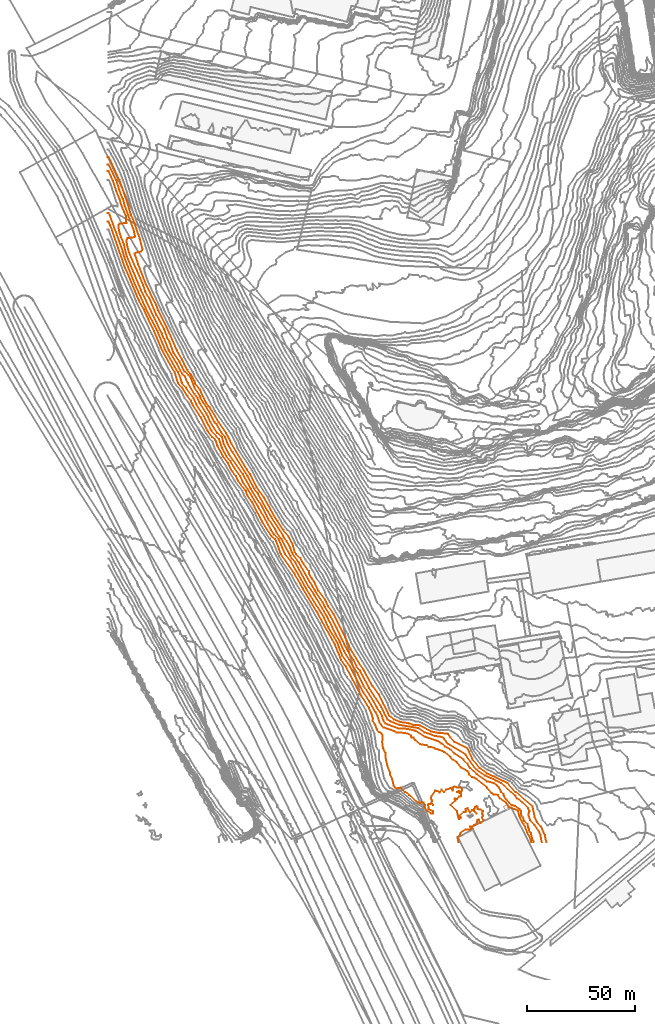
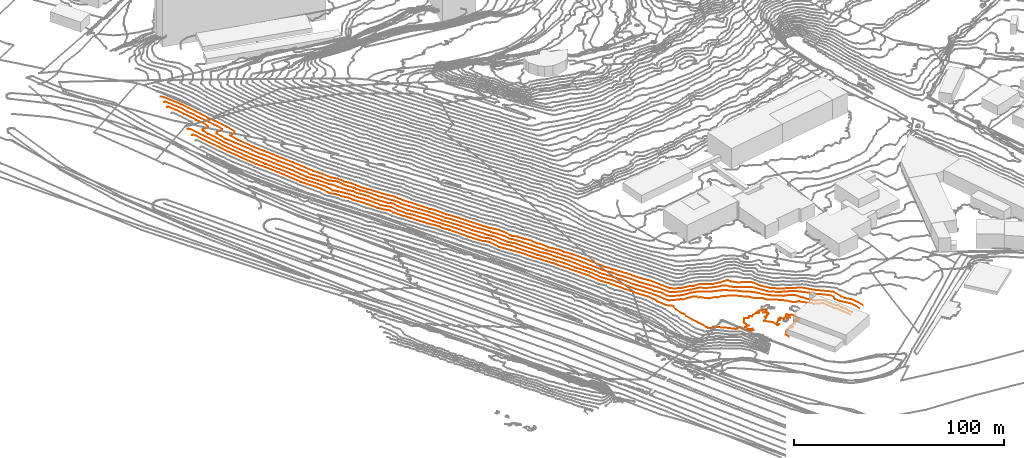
# Not in any storey, part 111 of 419: 5 proxies.
"""IFC2X3 model written with IfcOpenShell, lengths in metres."""

from ifc_helpers import new_model, entity, si_unit, frame, origin_with_axes, place, context, subcontext, project, element, save


model = new_model("IFC2X3")

# Units and contexts
model_context = context("Model", 3, precision=1e-05, world=origin_with_axes())
body_context = subcontext(model_context, "Body", "Model", "MODEL_VIEW")
ifc_project = project(units=[si_unit("AREAUNIT", "SQUARE_METRE"), si_unit("LENGTHUNIT", "METRE")], contexts=[model_context])

# Proxies
proxy_1_placement = place(None, frame((-0.4079795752, 285.5310245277, 10.0), z_axis=(0.0, 0.0, 1.0), x_axis=(1.0, 0.0, 0.0)))
element("IfcBuildingElementProxy", 1, at=proxy_1_placement, Name="Contour 10.0 m", ObjectType="NOTDEFINED", context=body_context, shape_type="GeometricCurveSet", body=[
    entity("IfcGeometricCurveSet", [entity("IfcPolyline", [entity("IfcCartesianPoint", [162.2777730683, -287.1333335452, 0.0]), entity("IfcCartesianPoint", [161.7500059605, -284.6333335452, 0.0]), entity("IfcCartesianPoint", [162.9285694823, -283.6333335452, 0.0]), entity("IfcCartesianPoint", [163.0999923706, -282.6333335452, 0.0]), entity("IfcCartesianPoint", [165.5, -280.9666721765, 0.0]), entity("IfcCartesianPoint", [167.5, -281.0333316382, 0.0]), entity("IfcCartesianPoint", [168.2999961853, -280.6333335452, 0.0]), entity("IfcCartesianPoint", [167.4999500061, -279.6333335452, 0.0]), entity("IfcCartesianPoint", [168.5, -280.1332835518, 0.0]), entity("IfcCartesianPoint", [168.5909106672, -279.6333335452, 0.0]), entity("IfcCartesianPoint", [169.5, -278.9190468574, 0.0]), entity("IfcCartesianPoint", [170.4999750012, -278.6333335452, 0.0]), entity("IfcCartesianPoint", [170.9999500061, -276.6333335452, 0.0]), entity("IfcCartesianPoint", [171.5, -276.4333297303, 0.0]), entity("IfcCartesianPoint", [171.8333333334, -276.6333335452, 0.0]), entity("IfcCartesianPoint", [172.0000166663, -277.6333335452, 0.0]), entity("IfcCartesianPoint", [172.5, -278.1333168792, 0.0]), entity("IfcCartesianPoint", [173.7857181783, -276.6333335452, 0.0]), entity("IfcCartesianPoint", [173.0999923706, -275.6333335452, 0.0]), entity("IfcCartesianPoint", [173.4999500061, -274.6333335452, 0.0]), entity("IfcCartesianPoint", [173.2499940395, -273.6333335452, 0.0]), entity("IfcCartesianPoint", [173.4999666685, -272.6333335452, 0.0]), entity("IfcCartesianPoint", [172.5, -271.8833395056, 0.0]), entity("IfcCartesianPoint", [170.9999500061, -271.6333335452, 0.0]), entity("IfcCartesianPoint", [170.9999500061, -270.6333335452, 0.0]), entity("IfcCartesianPoint", [170.5, -270.3000002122, 0.0]), entity("IfcCartesianPoint", [170.0000499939, -270.6333335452, 0.0]), entity("IfcCartesianPoint", [169.5000999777, -271.6333335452, 0.0]), entity("IfcCartesianPoint", [169.5000999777, -272.6333335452, 0.0]), entity("IfcCartesianPoint", [170.5, -273.6334335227, 0.0]), entity("IfcCartesianPoint", [169.4999000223, -272.6333335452, 0.0]), entity("IfcCartesianPoint", [168.5, -272.1333835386, 0.0]), entity("IfcCartesianPoint", [167.5, -273.1333585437, 0.0]), entity("IfcCartesianPoint", [166.5, -271.1333835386, 0.0]), entity("IfcCartesianPoint", [165.5000999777, -271.6333335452, 0.0]), entity("IfcCartesianPoint", [165.7500059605, -272.6333335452, 0.0]), entity("IfcCartesianPoint", [165.5, -272.9666668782, 0.0]), entity("IfcCartesianPoint", [164.5, -272.8833395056, 0.0]), entity("IfcCartesianPoint", [162.7500059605, -274.6333335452, 0.0]), entity("IfcCartesianPoint", [163.5000999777, -275.6333335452, 0.0]), entity("IfcCartesianPoint", [162.5, -276.1333835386, 0.0]), entity("IfcCartesianPoint", [162.1666666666, -275.6333335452, 0.0]), entity("IfcCartesianPoint", [161.4999500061, -272.6333335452, 0.0]), entity("IfcCartesianPoint", [158.4999500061, -269.6333335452, 0.0]), entity("IfcCartesianPoint", [160.8333333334, -267.6333335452, 0.0]), entity("IfcCartesianPoint", [160.5, -266.6332335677, 0.0]), entity("IfcCartesianPoint", [161.5, -266.9666668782, 0.0]), entity("IfcCartesianPoint", [162.5, -265.8833395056, 0.0]), entity("IfcCartesianPoint", [163.4999000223, -265.6333335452, 0.0]), entity("IfcCartesianPoint", [163.4999000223, -264.6333335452, 0.0]), entity("IfcCartesianPoint", [161.4999666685, -263.6333335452, 0.0]), entity("IfcCartesianPoint", [162.5, -263.3000002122, 0.0]), entity("IfcCartesianPoint", [163.5, -263.6332335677, 0.0]), entity("IfcCartesianPoint", [163.9999500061, -262.6333335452, 0.0]), entity("IfcCartesianPoint", [163.5, -261.6334335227, 0.0]), entity("IfcCartesianPoint", [161.5, -261.6333668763, 0.0]), entity("IfcCartesianPoint", [160.5, -261.1333585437, 0.0]), entity("IfcCartesianPoint", [159.5000499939, -261.6333335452, 0.0]), entity("IfcCartesianPoint", [159.8333333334, -262.6333335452, 0.0]), entity("IfcCartesianPoint", [159.5, -262.9666668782, 0.0]), entity("IfcCartesianPoint", [158.5, -261.9666668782, 0.0]), entity("IfcCartesianPoint", [156.5, -262.6333835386, 0.0]), entity("IfcCartesianPoint", [155.5, -263.6333835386, 0.0]), entity("IfcCartesianPoint", [154.5, -262.6333668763, 0.0]), entity("IfcCartesianPoint", [153.5, -263.8833395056, 0.0]), entity("IfcCartesianPoint", [152.5, -263.3000002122, 0.0]), entity("IfcCartesianPoint", [151.5, -263.1333835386, 0.0]), entity("IfcCartesianPoint", [149.7500059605, -265.6333335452, 0.0]), entity("IfcCartesianPoint", [149.5000999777, -266.6333335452, 0.0]), entity("IfcCartesianPoint", [150.0000124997, -267.6333335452, 0.0]), entity("IfcCartesianPoint", [149.8333333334, -268.6333335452, 0.0]), entity("IfcCartesianPoint", [150.5000333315, -269.6333335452, 0.0]), entity("IfcCartesianPoint", [149.5, -269.1333835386, 0.0]), entity("IfcCartesianPoint", [148.5, -269.2999949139, 0.0]), entity("IfcCartesianPoint", [148.2142818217, -269.6333335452, 0.0]), entity("IfcCartesianPoint", [148.5000999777, -271.6333335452, 0.0]), entity("IfcCartesianPoint", [150.5000999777, -272.6333335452, 0.0]), entity("IfcCartesianPoint", [150.5000999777, -273.6333335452, 0.0]), entity("IfcCartesianPoint", [149.5, -273.6334335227, 0.0]), entity("IfcCartesianPoint", [147.5, -272.2333259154, 0.0]), entity("IfcCartesianPoint", [146.6428590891, -270.6333335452, 0.0]), entity("IfcCartesianPoint", [146.7857181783, -269.6333335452, 0.0]), entity("IfcCartesianPoint", [146.0714305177, -268.6333335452, 0.0]), entity("IfcCartesianPoint", [145.5, -268.2696963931, 0.0]), entity("IfcCartesianPoint", [144.5, -268.7583331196, 0.0]), entity("IfcCartesianPoint", [143.4230769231, -268.6333335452, 0.0]), entity("IfcCartesianPoint", [139.5, -265.0619056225, 0.0]), entity("IfcCartesianPoint", [137.4508200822, -263.6333335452, 0.0]), entity("IfcCartesianPoint", [135.5, -261.6333356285, 0.0]), entity("IfcCartesianPoint", [133.5, -262.1494621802, 0.0]), entity("IfcCartesianPoint", [132.8333333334, -261.6333335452, 0.0]), entity("IfcCartesianPoint", [132.2999987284, -260.6333335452, 0.0]), entity("IfcCartesianPoint", [131.6363628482, -257.6333335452, 0.0]), entity("IfcCartesianPoint", [130.7000007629, -255.6333335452, 0.0]), entity("IfcCartesianPoint", [130.6428558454, -254.6333335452, 0.0]), entity("IfcCartesianPoint", [129.4166673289, -251.6333335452, 0.0]), entity("IfcCartesianPoint", [128.4999966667, -247.6333335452, 0.0]), entity("IfcCartesianPoint", [128.461537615, -245.6333335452, 0.0]), entity("IfcCartesianPoint", [127.5, -243.8833365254, 0.0]), entity("IfcCartesianPoint", [126.9736836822, -240.6333335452, 0.0]), entity("IfcCartesianPoint", [127.2368418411, -237.6333335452, 0.0]), entity("IfcCartesianPoint", [126.7499991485, -236.6333335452, 0.0]), entity("IfcCartesianPoint", [125.5, -235.9376806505, 0.0]), entity("IfcCartesianPoint", [124.5, -234.7999993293, 0.0]), entity("IfcCartesianPoint", [123.7558135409, -232.6333335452, 0.0]), entity("IfcCartesianPoint", [122.6025639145, -230.6333335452, 0.0]), entity("IfcCartesianPoint", [122.6555549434, -229.6333335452, 0.0]), entity("IfcCartesianPoint", [122.1382979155, -227.6333335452, 0.0]), entity("IfcCartesianPoint", [120.7999992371, -224.6333335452, 0.0]), entity("IfcCartesianPoint", [117.5, -219.4770832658, 0.0]), entity("IfcCartesianPoint", [110.1999996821, -205.6333335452, 0.0]), entity("IfcCartesianPoint", [108.0384616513, -202.6333335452, 0.0]), entity("IfcCartesianPoint", [105.1274512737, -195.6333335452, 0.0]), entity("IfcCartesianPoint", [96.9799995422, -180.6333335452, 0.0]), entity("IfcCartesianPoint", [90.2656253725, -169.6333335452, 0.0]), entity("IfcCartesianPoint", [86.4038458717, -162.6333335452, 0.0]), entity("IfcCartesianPoint", [80.1, -153.6333335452, 0.0]), entity("IfcCartesianPoint", [77.9754100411, -147.6333335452, 0.0]), entity("IfcCartesianPoint", [77.5, -146.827777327, 0.0]), entity("IfcCartesianPoint", [75.9098362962, -145.6333335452, 0.0]), entity("IfcCartesianPoint", [71.5, -138.6873887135, 0.0]), entity("IfcCartesianPoint", [66.8230771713, -129.6333335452, 0.0]), entity("IfcCartesianPoint", [64.6730770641, -126.6333335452, 0.0]), entity("IfcCartesianPoint", [63.9558827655, -124.6333335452, 0.0]), entity("IfcCartesianPoint", [60.3208957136, -119.6333335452, 0.0]), entity("IfcCartesianPoint", [59.2857142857, -117.6333335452, 0.0]), entity("IfcCartesianPoint", [57.7068963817, -115.6333335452, 0.0]), entity("IfcCartesianPoint", [55.6694921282, -111.6333335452, 0.0]), entity("IfcCartesianPoint", [53.5, -108.659649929, 0.0]), entity("IfcCartesianPoint", [50.7807016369, -103.6333335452, 0.0]), entity("IfcCartesianPoint", [50.2049178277, -101.6333335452, 0.0]), entity("IfcCartesianPoint", [49.5833326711, -100.6333335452, 0.0]), entity("IfcCartesianPoint", [48.3813564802, -99.6333335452, 0.0]), entity("IfcCartesianPoint", [46.1764703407, -96.6333335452, 0.0]), entity("IfcCartesianPoint", [43.1363641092, -90.6333335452, 0.0]), entity("IfcCartesianPoint", [39.2666662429, -84.6333335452, 0.0]), entity("IfcCartesianPoint", [38.5454541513, -82.6333335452, 0.0]), entity("IfcCartesianPoint", [36.8773583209, -80.6333335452, 0.0]), entity("IfcCartesianPoint", [34.5, -76.7728693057, 0.0]), entity("IfcCartesianPoint", [32.5526311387, -74.6333335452, 0.0]), entity("IfcCartesianPoint", [31.0357142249, -69.6333335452, 0.0]), entity("IfcCartesianPoint", [25.3030300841, -59.6333335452, 0.0]), entity("IfcCartesianPoint", [21.4838705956, -50.6333335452, 0.0]), entity("IfcCartesianPoint", [16.8012048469, -40.6333335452, 0.0]), entity("IfcCartesianPoint", [14.5, -36.5424224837, 0.0]), entity("IfcCartesianPoint", [7.8857145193, -20.6333335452, 0.0]), entity("IfcCartesianPoint", [1.2419356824, -1.6333335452, 0.0]), entity("IfcCartesianPoint", [0.5, 0.0, 0.0]), entity("IfcCartesianPoint", [0.0, 0.0, 0.0])])]),
])
proxy_2_placement = place(None, frame((-0.4079795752, 289.5795095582, 11.0), z_axis=(0.0, 0.0, 1.0), x_axis=(1.0, 0.0, 0.0)))
element("IfcBuildingElementProxy", 2, at=proxy_2_placement, Name="Contour 11.0 m", ObjectType="NOTDEFINED", context=body_context, shape_type="GeometricCurveSet", body=[
    entity("IfcGeometricCurveSet", [entity("IfcPolyline", [entity("IfcCartesianPoint", [195.9426228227, -291.1818185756, 0.0]), entity("IfcCartesianPoint", [195.5, -289.2399584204, 0.0]), entity("IfcCartesianPoint", [194.1282050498, -286.6818185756, 0.0]), entity("IfcCartesianPoint", [193.0283016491, -283.6818185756, 0.0]), entity("IfcCartesianPoint", [192.2222221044, -282.6818185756, 0.0]), entity("IfcCartesianPoint", [190.2948719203, -278.6818185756, 0.0]), entity("IfcCartesianPoint", [189.8488371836, -276.6818185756, 0.0]), entity("IfcCartesianPoint", [189.5, -276.2406420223, 0.0]), entity("IfcCartesianPoint", [185.5, -274.6818200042, 0.0]), entity("IfcCartesianPoint", [184.2291667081, -272.6818185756, 0.0]), entity("IfcCartesianPoint", [181.388888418, -270.6818185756, 0.0]), entity("IfcCartesianPoint", [180.5, -269.2335422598, 0.0]), entity("IfcCartesianPoint", [179.5, -268.8881679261, 0.0]), entity("IfcCartesianPoint", [178.5, -268.950475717, 0.0]), entity("IfcCartesianPoint", [177.5, -268.2736555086, 0.0]), entity("IfcCartesianPoint", [175.4393927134, -265.6818185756, 0.0]), entity("IfcCartesianPoint", [170.5, -261.7218194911, 0.0]), entity("IfcCartesianPoint", [169.5, -261.1307980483, 0.0]), entity("IfcCartesianPoint", [168.5, -260.9576804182, 0.0]), entity("IfcCartesianPoint", [167.1764703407, -259.6818185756, 0.0]), entity("IfcCartesianPoint", [166.9464282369, -258.6818185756, 0.0]), entity("IfcCartesianPoint", [166.5, -258.1609847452, 0.0]), entity("IfcCartesianPoint", [163.5, -256.4644264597, 0.0]), entity("IfcCartesianPoint", [161.5, -254.0359850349, 0.0]), entity("IfcCartesianPoint", [159.4999967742, -252.6818185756, 0.0]), entity("IfcCartesianPoint", [158.5, -251.5568185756, 0.0]), entity("IfcCartesianPoint", [155.5, -249.2373743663, 0.0]), entity("IfcCartesianPoint", [153.5, -248.2864698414, 0.0]), entity("IfcCartesianPoint", [151.5, -247.7473923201, 0.0]), entity("IfcCartesianPoint", [150.5, -247.0948611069, 0.0]), entity("IfcCartesianPoint", [148.5, -247.0707077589, 0.0]), entity("IfcCartesianPoint", [147.5, -246.1524061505, 0.0]), entity("IfcCartesianPoint", [144.5, -245.6818212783, 0.0]), entity("IfcCartesianPoint", [142.1000019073, -243.6818185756, 0.0]), entity("IfcCartesianPoint", [141.5, -242.6818352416, 0.0]), entity("IfcCartesianPoint", [140.5, -242.6818328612, 0.0]), entity("IfcCartesianPoint", [140.2499970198, -241.6818185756, 0.0]), entity("IfcCartesianPoint", [138.4999888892, -240.6818185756, 0.0]), entity("IfcCartesianPoint", [135.5, -240.2651519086, 0.0]), entity("IfcCartesianPoint", [133.5, -240.3228436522, 0.0]), entity("IfcCartesianPoint", [132.5, -239.619319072, 0.0]), entity("IfcCartesianPoint", [127.5, -237.8557317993, 0.0]), entity("IfcCartesianPoint", [126.5, -236.681825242, 0.0]), entity("IfcCartesianPoint", [125.8333333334, -235.6818185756, 0.0]), entity("IfcCartesianPoint", [124.8255819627, -232.6818185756, 0.0]), entity("IfcCartesianPoint", [123.8269229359, -230.6818185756, 0.0]), entity("IfcCartesianPoint", [120.9716983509, -225.6818185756, 0.0]), entity("IfcCartesianPoint", [118.2894737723, -221.6818185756, 0.0]), entity("IfcCartesianPoint", [112.1949148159, -209.6818185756, 0.0]), entity("IfcCartesianPoint", [108.5192311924, -204.6818185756, 0.0]), entity("IfcCartesianPoint", [106.2230766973, -198.6818185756, 0.0]), entity("IfcCartesianPoint", [102.1315789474, -191.6818185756, 0.0]), entity("IfcCartesianPoint", [99.8846153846, -186.6818185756, 0.0]), entity("IfcCartesianPoint", [91.8333327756, -173.6818185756, 0.0]), entity("IfcCartesianPoint", [84.5166670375, -160.6818185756, 0.0]), entity("IfcCartesianPoint", [82.0510205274, -157.6818185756, 0.0]), entity("IfcCartesianPoint", [79.0263155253, -150.6818185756, 0.0]), entity("IfcCartesianPoint", [76.9838713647, -148.6818185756, 0.0]), entity("IfcCartesianPoint", [75.6627902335, -146.6818185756, 0.0]), entity("IfcCartesianPoint", [69.6052637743, -135.6818185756, 0.0]), entity("IfcCartesianPoint", [64.8076921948, -127.6818185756, 0.0]), entity("IfcCartesianPoint", [62.7156859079, -124.6818185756, 0.0]), entity("IfcCartesianPoint", [61.3000003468, -121.6818185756, 0.0]), entity("IfcCartesianPoint", [58.5, -117.7727268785, 0.0]), entity("IfcCartesianPoint", [56.7499996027, -114.6818185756, 0.0]), entity("IfcCartesianPoint", [55.116667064, -112.6818185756, 0.0]), entity("IfcCartesianPoint", [52.9426232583, -108.6818185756, 0.0]), entity("IfcCartesianPoint", [51.5, -104.5513846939, 0.0]), entity("IfcCartesianPoint", [47.9749994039, -100.6818185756, 0.0]), entity("IfcCartesianPoint", [44.4423081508, -93.6818185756, 0.0]), entity("IfcCartesianPoint", [41.0918369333, -88.6818185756, 0.0]), entity("IfcCartesianPoint", [39.8148149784, -85.6818185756, 0.0]), entity("IfcCartesianPoint", [36.1909090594, -80.6818185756, 0.0]), entity("IfcCartesianPoint", [34.3214280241, -78.6818185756, 0.0]), entity("IfcCartesianPoint", [33.833334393, -76.6818185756, 0.0]), entity("IfcCartesianPoint", [32.6000006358, -73.6818185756, 0.0]), entity("IfcCartesianPoint", [26.8442625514, -63.6818185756, 0.0]), entity("IfcCartesianPoint", [23.0303029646, -54.6818185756, 0.0]), entity("IfcCartesianPoint", [17.5468746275, -43.6818185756, 0.0]), entity("IfcCartesianPoint", [12.5454541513, -32.6818185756, 0.0]), entity("IfcCartesianPoint", [7.7954547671, -20.6818185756, 0.0]), entity("IfcCartesianPoint", [7.0079359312, -17.6818185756, 0.0]), entity("IfcCartesianPoint", [0.9545444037, -0.6818185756, 0.0]), entity("IfcCartesianPoint", [0.5, 0.0, 0.0]), entity("IfcCartesianPoint", [0.0, 0.0, 0.0])])]),
])
proxy_3_placement = place(None, frame((-0.4079795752, 308.897687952, 12.0), z_axis=(0.0, 0.0, 1.0), x_axis=(1.0, 0.0, 0.0)))
element("IfcBuildingElementProxy", 3, at=proxy_3_placement, Name="Contour 12.0 m", ObjectType="NOTDEFINED", context=body_context, shape_type="GeometricCurveSet", body=[
    entity("IfcGeometricCurveSet", [entity("IfcPolyline", [entity("IfcCartesianPoint", [197.0517236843, -310.4999969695, 0.0]), entity("IfcCartesianPoint", [197.0517236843, -309.9999969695, 0.0]), entity("IfcCartesianPoint", [196.4083969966, -308.9999969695, 0.0]), entity("IfcCartesianPoint", [195.7444437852, -305.9999969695, 0.0]), entity("IfcCartesianPoint", [194.939025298, -304.9999969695, 0.0]), entity("IfcCartesianPoint", [194.9166660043, -303.9999969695, 0.0]), entity("IfcCartesianPoint", [194.5, -303.4230737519, 0.0]), entity("IfcCartesianPoint", [194.197674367, -301.9999969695, 0.0]), entity("IfcCartesianPoint", [192.5, -300.4358942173, 0.0]), entity("IfcCartesianPoint", [192.1623375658, -298.9999969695, 0.0]), entity("IfcCartesianPoint", [191.3155343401, -297.9999969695, 0.0]), entity("IfcCartesianPoint", [191.0789473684, -295.9999969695, 0.0]), entity("IfcCartesianPoint", [190.5, -295.0638262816, 0.0]), entity("IfcCartesianPoint", [188.5, -293.6379278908, 0.0]), entity("IfcCartesianPoint", [186.7499991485, -292.9999969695, 0.0]), entity("IfcCartesianPoint", [184.5, -290.6785675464, 0.0]), entity("IfcCartesianPoint", [183.2500005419, -288.9999969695, 0.0]), entity("IfcCartesianPoint", [182.9761922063, -287.9999969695, 0.0]), entity("IfcCartesianPoint", [182.0294124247, -286.9999969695, 0.0]), entity("IfcCartesianPoint", [181.0517236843, -284.9999969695, 0.0]), entity("IfcCartesianPoint", [180.0517236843, -283.9999969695, 0.0]), entity("IfcCartesianPoint", [178.5, -282.9622603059, 0.0]), entity("IfcCartesianPoint", [175.5, -282.1428545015, 0.0]), entity("IfcCartesianPoint", [170.5, -278.7708307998, 0.0]), entity("IfcCartesianPoint", [167.6162794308, -275.9999969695, 0.0]), entity("IfcCartesianPoint", [166.3378370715, -273.9999969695, 0.0]), entity("IfcCartesianPoint", [164.5, -272.0588218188, 0.0]), entity("IfcCartesianPoint", [160.5, -269.3243210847, 0.0]), entity("IfcCartesianPoint", [158.5, -267.5333300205, 0.0]), entity("IfcCartesianPoint", [156.038462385, -265.9999969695, 0.0]), entity("IfcCartesianPoint", [154.5, -264.607140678, 0.0]), entity("IfcCartesianPoint", [152.5, -263.5555525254, 0.0]), entity("IfcCartesianPoint", [146.5, -261.5090872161, 0.0]), entity("IfcCartesianPoint", [142.5, -258.8181789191, 0.0]), entity("IfcCartesianPoint", [138.5, -257.8749968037, 0.0]), entity("IfcCartesianPoint", [134.5, -257.7407370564, 0.0]), entity("IfcCartesianPoint", [129.5, -255.8823491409, 0.0]), entity("IfcCartesianPoint", [128.5, -255.3199966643, 0.0]), entity("IfcCartesianPoint", [127.4999978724, -253.9999969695, 0.0]), entity("IfcCartesianPoint", [126.939025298, -251.9999969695, 0.0]), entity("IfcCartesianPoint", [125.9888896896, -249.9999969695, 0.0]), entity("IfcCartesianPoint", [124.5, -248.0000001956, 0.0]), entity("IfcCartesianPoint", [122.9693870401, -244.9999969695, 0.0]), entity("IfcCartesianPoint", [118.4682532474, -237.9999969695, 0.0]), entity("IfcCartesianPoint", [115.4999983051, -231.9999969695, 0.0]), entity("IfcCartesianPoint", [109.347457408, -221.9999969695, 0.0]), entity("IfcCartesianPoint", [107.2083333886, -216.9999969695, 0.0]), entity("IfcCartesianPoint", [105.415253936, -213.9999969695, 0.0]), entity("IfcCartesianPoint", [101.5, -205.8857114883, 0.0]), entity("IfcCartesianPoint", [95.5, -195.7105242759, 0.0]), entity("IfcCartesianPoint", [92.9444439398, -191.9999969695, 0.0]), entity("IfcCartesianPoint", [86.83898264, -180.9999969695, 0.0]), entity("IfcCartesianPoint", [84.5, -177.9444402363, 0.0]), entity("IfcCartesianPoint", [80.412500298, -169.9999969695, 0.0]), entity("IfcCartesianPoint", [78.1721312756, -166.9999969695, 0.0]), entity("IfcCartesianPoint", [77.5, -165.5151488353, 0.0]), entity("IfcCartesianPoint", [74.518182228, -160.9999969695, 0.0]), entity("IfcCartesianPoint", [71.5, -155.1562472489, 0.0]), entity("IfcCartesianPoint", [66.2971011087, -146.9999969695, 0.0]), entity("IfcCartesianPoint", [62.5322587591, -139.9999969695, 0.0]), entity("IfcCartesianPoint", [56.2538462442, -130.9999969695, 0.0]), entity("IfcCartesianPoint", [53.6428571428, -125.9999969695, 0.0]), entity("IfcCartesianPoint", [52.9833329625, -122.9999969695, 0.0]), entity("IfcCartesianPoint", [50.7000007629, -120.9999969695, 0.0]), entity("IfcCartesianPoint", [47.530769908, -115.9999969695, 0.0]), entity("IfcCartesianPoint", [45.75, -111.9999969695, 0.0]), entity("IfcCartesianPoint", [42.5, -106.9444402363, 0.0]), entity("IfcCartesianPoint", [41.5, -104.6764678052, 0.0]), entity("IfcCartesianPoint", [40.1399993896, -102.9999969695, 0.0]), entity("IfcCartesianPoint", [37.1206907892, -97.9999969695, 0.0]), entity("IfcCartesianPoint", [35.7666662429, -94.9999969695, 0.0]), entity("IfcCartesianPoint", [34.6904759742, -93.9999969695, 0.0]), entity("IfcCartesianPoint", [32.0517236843, -88.9999969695, 0.0]), entity("IfcCartesianPoint", [28.3955228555, -82.9999969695, 0.0]), entity("IfcCartesianPoint", [25.0967741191, -74.9999969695, 0.0]), entity("IfcCartesianPoint", [15.4538465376, -54.9999969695, 0.0]), entity("IfcCartesianPoint", [8.813432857, -38.9999969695, 0.0]), entity("IfcCartesianPoint", [7.5571428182, -33.9999969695, 0.0]), entity("IfcCartesianPoint", [5.722222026, -28.9999969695, 0.0]), entity("IfcCartesianPoint", [5.0312507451, -25.9999969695, 0.0]), entity("IfcCartesianPoint", [5.0333341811, -24.9999969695, 0.0]), entity("IfcCartesianPoint", [5.5, -24.2222239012, 0.0]), entity("IfcCartesianPoint", [8.6538495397, -23.9999969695, 0.0]), entity("IfcCartesianPoint", [8.5, -20.8333276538, 0.0]), entity("IfcCartesianPoint", [6.4078950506, -15.9999969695, 0.0]), entity("IfcCartesianPoint", [5.6052637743, -12.9999969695, 0.0]), entity("IfcCartesianPoint", [3.9482763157, -8.9999969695, 0.0]), entity("IfcCartesianPoint", [2.5, -4.4799965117, 0.0]), entity("IfcCartesianPoint", [0.5, 0.0, 0.0]), entity("IfcCartesianPoint", [0.0, 0.0, 0.0])])]),
])
proxy_4_placement = place(None, frame((-0.4079795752, 312.0356219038, 13.0), z_axis=(0.0, 0.0, 1.0), x_axis=(1.0, 0.0, 0.0)))
element("IfcBuildingElementProxy", 4, at=proxy_4_placement, Name="Contour 13.0 m", ObjectType="NOTDEFINED", context=body_context, shape_type="GeometricCurveSet", body=[
    entity("IfcGeometricCurveSet", [entity("IfcPolyline", [entity("IfcCartesianPoint", [200.8191485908, -313.6379309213, 0.0]), entity("IfcCartesianPoint", [200.1904759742, -310.1379309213, 0.0]), entity("IfcCartesianPoint", [199.5, -308.4179297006, 0.0]), entity("IfcCartesianPoint", [197.5, -305.4969058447, 0.0]), entity("IfcCartesianPoint", [195.3800010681, -303.1379309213, 0.0]), entity("IfcCartesianPoint", [194.7608708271, -301.1379309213, 0.0]), entity("IfcCartesianPoint", [194.7258058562, -300.1379309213, 0.0]), entity("IfcCartesianPoint", [195.0555551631, -299.1379309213, 0.0]), entity("IfcCartesianPoint", [194.5, -297.6085184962, 0.0]), entity("IfcCartesianPoint", [191.9705875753, -295.1379309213, 0.0]), entity("IfcCartesianPoint", [189.2428569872, -293.1379309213, 0.0]), entity("IfcCartesianPoint", [188.6052630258, -292.1379309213, 0.0]), entity("IfcCartesianPoint", [181.89473671, -286.1379309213, 0.0]), entity("IfcCartesianPoint", [179.5, -284.8236447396, 0.0]), entity("IfcCartesianPoint", [174.5, -282.6993341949, 0.0]), entity("IfcCartesianPoint", [170.5, -279.9333853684, 0.0]), entity("IfcCartesianPoint", [165.5, -272.8687005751, 0.0]), entity("IfcCartesianPoint", [157.6599998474, -268.1379309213, 0.0]), entity("IfcCartesianPoint", [156.5, -266.9665013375, 0.0]), entity("IfcCartesianPoint", [155.5, -265.4045971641, 0.0]), entity("IfcCartesianPoint", [154.5, -264.783764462, 0.0]), entity("IfcCartesianPoint", [151.5, -264.3197497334, 0.0]), entity("IfcCartesianPoint", [146.5, -262.6814091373, 0.0]), entity("IfcCartesianPoint", [143.5, -260.6691808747, 0.0]), entity("IfcCartesianPoint", [134.5, -259.1379325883, 0.0]), entity("IfcCartesianPoint", [130.5, -257.4652040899, 0.0]), entity("IfcCartesianPoint", [129.5, -256.7595514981, 0.0]), entity("IfcCartesianPoint", [126.5, -250.709358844, 0.0]), entity("IfcCartesianPoint", [120.9999981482, -242.1379309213, 0.0]), entity("IfcCartesianPoint", [116.6967212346, -234.1379309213, 0.0]), entity("IfcCartesianPoint", [115.2301586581, -232.1379309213, 0.0]), entity("IfcCartesianPoint", [113.8015870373, -229.1379309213, 0.0]), entity("IfcCartesianPoint", [111.0849056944, -225.1379309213, 0.0]), entity("IfcCartesianPoint", [105.8392852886, -214.1379309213, 0.0]), entity("IfcCartesianPoint", [102.1206891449, -207.1379309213, 0.0]), entity("IfcCartesianPoint", [100.5, -204.7185762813, 0.0]), entity("IfcCartesianPoint", [99.5, -202.4712653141, 0.0]), entity("IfcCartesianPoint", [95.8968253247, -197.1379309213, 0.0]), entity("IfcCartesianPoint", [88.5, -184.1101525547, 0.0]), entity("IfcCartesianPoint", [85.5, -180.0426929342, 0.0]), entity("IfcCartesianPoint", [84.4473688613, -177.1379309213, 0.0]), entity("IfcCartesianPoint", [82.8333333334, -174.1379309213, 0.0]), entity("IfcCartesianPoint", [81.5, -172.480788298, 0.0]), entity("IfcCartesianPoint", [80.9642857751, -171.1379309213, 0.0]), entity("IfcCartesianPoint", [75.7037030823, -163.1379309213, 0.0]), entity("IfcCartesianPoint", [69.5, -152.2236445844, 0.0]), entity("IfcCartesianPoint", [67.9074079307, -150.1379309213, 0.0]), entity("IfcCartesianPoint", [64.7295085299, -144.1379309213, 0.0]), entity("IfcCartesianPoint", [57.8137250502, -133.1379309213, 0.0]), entity("IfcCartesianPoint", [55.4999980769, -129.1379309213, 0.0]), entity("IfcCartesianPoint", [54.3734172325, -126.1379309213, 0.0]), entity("IfcCartesianPoint", [52.5, -123.7665024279, 0.0]), entity("IfcCartesianPoint", [50.369564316, -120.1379309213, 0.0]), entity("IfcCartesianPoint", [49.4250005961, -119.1379309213, 0.0]), entity("IfcCartesianPoint", [45.7337664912, -112.1379309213, 0.0]), entity("IfcCartesianPoint", [44.2313428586, -110.1379309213, 0.0]), entity("IfcCartesianPoint", [43.0416669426, -108.1379309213, 0.0]), entity("IfcCartesianPoint", [42.749999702, -107.1379309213, 0.0]), entity("IfcCartesianPoint", [40.166666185, -103.1379309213, 0.0]), entity("IfcCartesianPoint", [38.5, -98.7413799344, 0.0]), entity("IfcCartesianPoint", [37.5, -97.3379311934, 0.0]), entity("IfcCartesianPoint", [35.5, -95.7658385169, 0.0]), entity("IfcCartesianPoint", [33.2407400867, -91.1379309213, 0.0]), entity("IfcCartesianPoint", [30.5444453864, -87.1379309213, 0.0]), entity("IfcCartesianPoint", [28.6785719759, -82.1379309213, 0.0]), entity("IfcCartesianPoint", [27.5566032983, -80.1379309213, 0.0]), entity("IfcCartesianPoint", [26.159091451, -76.1379309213, 0.0]), entity("IfcCartesianPoint", [22.5, -69.3379316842, 0.0]), entity("IfcCartesianPoint", [19.4069768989, -62.1379309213, 0.0]), entity("IfcCartesianPoint", [17.5, -58.9561131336, 0.0]), entity("IfcCartesianPoint", [16.5, -55.8998348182, 0.0]), entity("IfcCartesianPoint", [10.1363638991, -41.1379309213, 0.0]), entity("IfcCartesianPoint", [9.2199999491, -38.1379309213, 0.0]), entity("IfcCartesianPoint", [8.6999987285, -35.1379309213, 0.0]), entity("IfcCartesianPoint", [9.1666613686, -34.1379309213, 0.0]), entity("IfcCartesianPoint", [12.5, -33.637923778, 0.0]), entity("IfcCartesianPoint", [12.6842096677, -33.1379309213, 0.0]), entity("IfcCartesianPoint", [12.0172417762, -30.1379309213, 0.0]), entity("IfcCartesianPoint", [7.9366202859, -19.1379309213, 0.0]), entity("IfcCartesianPoint", [7.1447363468, -16.1379309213, 0.0]), entity("IfcCartesianPoint", [5.5303036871, -12.1379309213, 0.0]), entity("IfcCartesianPoint", [3.9838713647, -7.1379309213, 0.0]), entity("IfcCartesianPoint", [0.5, 0.0, 0.0]), entity("IfcCartesianPoint", [0.0, 0.0, 0.0])])]),
])
proxy_5_placement = place(None, frame((-0.4079795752, 315.4691195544, 14.0), z_axis=(0.0, 0.0, 1.0), x_axis=(1.0, 0.0, 0.0)))
element("IfcBuildingElementProxy", 5, at=proxy_5_placement, Name="Contour 14.0 m", ObjectType="NOTDEFINED", context=body_context, shape_type="GeometricCurveSet", body=[
    entity("IfcGeometricCurveSet", [entity("IfcPolyline", [entity("IfcCartesianPoint", [202.9705875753, -317.0714285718, 0.0]), entity("IfcCartesianPoint", [202.1666666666, -313.5714285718, 0.0]), entity("IfcCartesianPoint", [200.5, -309.7293222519, 0.0]), entity("IfcCartesianPoint", [198.5606072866, -307.5714285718, 0.0]), entity("IfcCartesianPoint", [197.5, -305.2637368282, 0.0]), entity("IfcCartesianPoint", [196.5, -300.3142855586, 0.0]), entity("IfcCartesianPoint", [188.5833333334, -293.5714285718, 0.0]), entity("IfcCartesianPoint", [184.9242435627, -289.5714285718, 0.0]), entity("IfcCartesianPoint", [175.5, -285.0571432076, 0.0]), entity("IfcCartesianPoint", [172.0777785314, -282.5714285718, 0.0]), entity("IfcCartesianPoint", [168.8508770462, -278.5714285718, 0.0]), entity("IfcCartesianPoint", [166.5, -273.545112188, 0.0]), entity("IfcCartesianPoint", [160.5, -270.523808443, 0.0]), entity("IfcCartesianPoint", [158.5, -268.3839300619, 0.0]), entity("IfcCartesianPoint", [157.5, -266.7380978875, 0.0]), entity("IfcCartesianPoint", [157.0999923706, -266.5714285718, 0.0]), entity("IfcCartesianPoint", [153.5, -266.4530073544, 0.0]), entity("IfcCartesianPoint", [149.5, -265.691428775, 0.0]), entity("IfcCartesianPoint", [144.5, -262.9365076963, 0.0]), entity("IfcCartesianPoint", [143.5, -262.5863542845, 0.0]), entity("IfcCartesianPoint", [141.5, -262.7670810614, 0.0]), entity("IfcCartesianPoint", [139.5, -261.8896107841, 0.0]), entity("IfcCartesianPoint", [135.5, -261.3395445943, 0.0]), entity("IfcCartesianPoint", [132.5, -260.1451991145, 0.0]), entity("IfcCartesianPoint", [130.3437494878, -258.5714285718, 0.0]), entity("IfcCartesianPoint", [125.5, -248.5357135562, 0.0]), entity("IfcCartesianPoint", [122.4999978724, -244.5714285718, 0.0]), entity("IfcCartesianPoint", [118.5943400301, -237.5714285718, 0.0]), entity("IfcCartesianPoint", [112.3809519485, -227.5714285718, 0.0]), entity("IfcCartesianPoint", [109.5, -221.2252744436, 0.0]), entity("IfcCartesianPoint", [104.5, -211.3928562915, 0.0]), entity("IfcCartesianPoint", [101.938596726, -207.5714285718, 0.0]), entity("IfcCartesianPoint", [100.6159419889, -204.5714285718, 0.0]), entity("IfcCartesianPoint", [97.5, -200.626985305, 0.0]), entity("IfcCartesianPoint", [95.5, -196.2751320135, 0.0]), entity("IfcCartesianPoint", [94.5, -195.0541884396, 0.0]), entity("IfcCartesianPoint", [93.1724144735, -192.5714285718, 0.0]), entity("IfcCartesianPoint", [93.1521742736, -191.5714285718, 0.0]), entity("IfcCartesianPoint", [90.5, -188.0552991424, 0.0]), entity("IfcCartesianPoint", [89.1216205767, -185.5714285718, 0.0]), entity("IfcCartesianPoint", [87.1481489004, -183.5714285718, 0.0]), entity("IfcCartesianPoint", [86.548781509, -182.5714285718, 0.0]), entity("IfcCartesianPoint", [85.5, -178.8677251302, 0.0]), entity("IfcCartesianPoint", [83.7444437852, -175.5714285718, 0.0]), entity("IfcCartesianPoint", [81.2704914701, -172.5714285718, 0.0]), entity("IfcCartesianPoint", [78.5, -168.4537816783, 0.0]), entity("IfcCartesianPoint", [72.3846146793, -157.5714285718, 0.0]), entity("IfcCartesianPoint", [68.9929582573, -152.5714285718, 0.0]), entity("IfcCartesianPoint", [65.8863633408, -146.5714285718, 0.0]), entity("IfcCartesianPoint", [64.4230769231, -144.5714285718, 0.0]), entity("IfcCartesianPoint", [57.2666662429, -132.5714285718, 0.0]), entity("IfcCartesianPoint", [54.8870970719, -127.5714285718, 0.0]), entity("IfcCartesianPoint", [51.3499998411, -122.5714285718, 0.0]), entity("IfcCartesianPoint", [47.1612901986, -115.5714285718, 0.0]), entity("IfcCartesianPoint", [45.5, -113.5187958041, 0.0]), entity("IfcCartesianPoint", [42.6639348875, -107.5714285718, 0.0]), entity("IfcCartesianPoint", [40.5, -104.6996340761, 0.0]), entity("IfcCartesianPoint", [40.2105260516, -103.5714285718, 0.0]), entity("IfcCartesianPoint", [38.6235952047, -100.5714285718, 0.0]), entity("IfcCartesianPoint", [36.8636358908, -98.5714285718, 0.0]), entity("IfcCartesianPoint", [34.5, -93.7004605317, 0.0]), entity("IfcCartesianPoint", [32.0692309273, -89.5714285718, 0.0]), entity("IfcCartesianPoint", [27.3181819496, -78.5714285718, 0.0]), entity("IfcCartesianPoint", [23.5, -71.1339283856, 0.0]), entity("IfcCartesianPoint", [22.5133336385, -68.5714285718, 0.0]), entity("IfcCartesianPoint", [17.640625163, -58.5714285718, 0.0]), entity("IfcCartesianPoint", [14.1315786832, -49.5714285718, 0.0]), entity("IfcCartesianPoint", [12.4722216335, -44.5714285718, 0.0]), entity("IfcCartesianPoint", [13.5, -44.1098872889, 0.0]), entity("IfcCartesianPoint", [15.5, -43.7857133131, 0.0]), entity("IfcCartesianPoint", [16.1363638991, -42.5714285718, 0.0]), entity("IfcCartesianPoint", [14.8521126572, -37.5714285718, 0.0]), entity("IfcCartesianPoint", [12.5, -30.5714321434, 0.0]), entity("IfcCartesianPoint", [10.7631573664, -26.5714285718, 0.0]), entity("IfcCartesianPoint", [9.3000003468, -21.5714285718, 0.0]), entity("IfcCartesianPoint", [5.4577468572, -10.5714285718, 0.0]), entity("IfcCartesianPoint", [1.3400001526, -1.5714285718, 0.0]), entity("IfcCartesianPoint", [0.5, 0.0, 0.0]), entity("IfcCartesianPoint", [0.0, 0.0, 0.0])])]),
])

save(model, "model.ifc")
